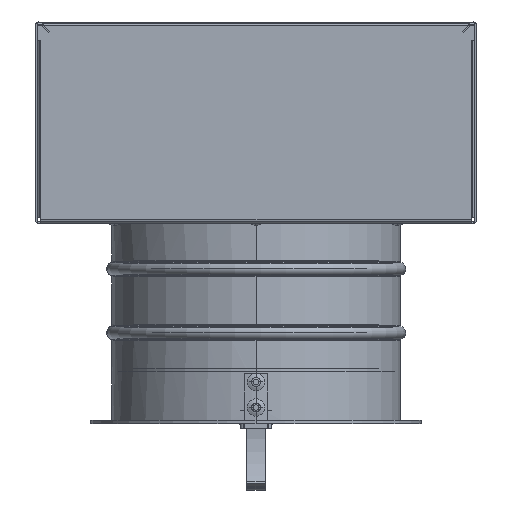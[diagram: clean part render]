
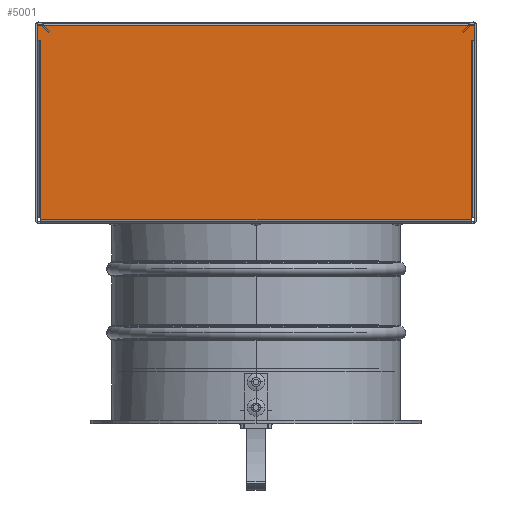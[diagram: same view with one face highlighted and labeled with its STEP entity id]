
A CAD part, left-side view. The second image highlights one B-rep face of the part: STEP entity #5001.
In plain terms, the highlighted planar face has unit normal (-1, 0, 0).
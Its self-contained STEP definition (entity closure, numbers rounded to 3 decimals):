
#1423=DIRECTION('',(0.,-1.,0.));
#1424=VECTOR('',#1423,236.08);
#1425=CARTESIAN_POINT('',(-150.545,-0.56,2.));
#1426=LINE('',#1425,#1424);
#1492=DIRECTION('',(0.,0.,1.));
#1493=VECTOR('',#1492,0.885);
#1494=CARTESIAN_POINT('',(-150.545,-0.56,2.));
#1495=LINE('',#1494,#1493);
#1496=DIRECTION('',(0.,0.,1.));
#1497=VECTOR('',#1496,97.721);
#1498=CARTESIAN_POINT('',(-150.545,-0.56,
2.885));
#1499=LINE('',#1498,#1497);
#1500=DIRECTION('',(0.,1.,0.));
#1501=VECTOR('',#1500,1.96);
#1502=CARTESIAN_POINT('',(-150.545,-0.56,
100.606));
#1503=LINE('',#1502,#1501);
#1504=DIRECTION('',(0.,0.,1.));
#1505=VECTOR('',#1504,7.883);
#1506=CARTESIAN_POINT('',(-150.545,1.4,100.606));
#1507=LINE('',#1506,#1505);
#1508=DIRECTION('',(0.,-1.,0.));
#1509=VECTOR('',#1508,240.);
#1510=CARTESIAN_POINT('',(-150.545,1.4,108.489));
#1511=LINE('',#1510,#1509);
#1512=DIRECTION('',(0.,0.,-1.));
#1513=VECTOR('',#1512,7.883);
#1514=CARTESIAN_POINT('',(-150.545,-238.6,108.489));
#1515=LINE('',#1514,#1513);
#1516=DIRECTION('',(0.,1.,0.));
#1517=VECTOR('',#1516,1.96);
#1518=CARTESIAN_POINT('',(-150.545,-238.6,100.606));
#1519=LINE('',#1518,#1517);
#1520=DIRECTION('',(0.,0.,1.));
#1521=VECTOR('',#1520,97.721);
#1522=CARTESIAN_POINT('',(-150.545,-236.64,2.885));
#1523=LINE('',#1522,#1521);
#1524=DIRECTION('',(0.,0.,-1.));
#1525=VECTOR('',#1524,0.885);
#1526=CARTESIAN_POINT('',(-150.545,-236.64,2.885));
#1527=LINE('',#1526,#1525);
#1547=CARTESIAN_POINT('',(-150.545,-0.56,
2.885));
#1895=CARTESIAN_POINT('',(-150.545,-236.64,2.885));
#2471=CARTESIAN_POINT('',(-150.545,-238.6,100.606));
#2473=VERTEX_POINT('',#2471);
#2475=CARTESIAN_POINT('',(-150.545,1.4,100.606));
#2477=VERTEX_POINT('',#2475);
#2692=CARTESIAN_POINT('',(-150.545,-236.64,100.606));
#2693=VERTEX_POINT('',#2692);
#2702=VERTEX_POINT('',#1895);
#2706=CARTESIAN_POINT('',(-150.545,-0.56,
100.606));
#2707=VERTEX_POINT('',#2706);
#2716=VERTEX_POINT('',#1547);
#2724=CARTESIAN_POINT('',(-150.545,-238.6,108.489));
#2725=VERTEX_POINT('',#2724);
#2728=CARTESIAN_POINT('',(-150.545,1.4,108.489));
#2729=VERTEX_POINT('',#2728);
#2752=CARTESIAN_POINT('',(-150.545,-236.64,2.));
#2753=VERTEX_POINT('',#2752);
#2756=CARTESIAN_POINT('',(-150.545,-0.56,2.));
#2757=VERTEX_POINT('',#2756);
#4977=CARTESIAN_POINT('',(-150.545,0.,-148.615));
#4978=DIRECTION('',(1.,0.,0.));
#4979=DIRECTION('',(0.,1.,0.));
#4980=AXIS2_PLACEMENT_3D('',#4977,#4978,#4979);
#4981=PLANE('',#4980);
#4982=ORIENTED_EDGE('',*,*,#4874,.F.);
#4983=ORIENTED_EDGE('',*,*,#4906,.T.);
#4985=ORIENTED_EDGE('',*,*,#4984,.T.);
#4987=ORIENTED_EDGE('',*,*,#4986,.T.);
#4989=ORIENTED_EDGE('',*,*,#4988,.T.);
#4991=ORIENTED_EDGE('',*,*,#4990,.T.);
#4993=ORIENTED_EDGE('',*,*,#4992,.T.);
#4995=ORIENTED_EDGE('',*,*,#4994,.T.);
#4997=ORIENTED_EDGE('',*,*,#4996,.F.);
#4998=ORIENTED_EDGE('',*,*,#4944,.T.);
#4999=EDGE_LOOP('',(#4982,#4983,#4985,#4987,#4989,#4991,#4993,#4995,#4997,
#4998));
#5000=FACE_OUTER_BOUND('',#4999,.F.);
#4874=EDGE_CURVE('',#2757,#2753,#1426,.T.);
#4906=EDGE_CURVE('',#2757,#2716,#1495,.T.);
#4944=EDGE_CURVE('',#2702,#2753,#1527,.T.);
#4984=EDGE_CURVE('',#2716,#2707,#1499,.T.);
#4986=EDGE_CURVE('',#2707,#2477,#1503,.T.);
#4988=EDGE_CURVE('',#2477,#2729,#1507,.T.);
#4990=EDGE_CURVE('',#2729,#2725,#1511,.T.);
#4992=EDGE_CURVE('',#2725,#2473,#1515,.T.);
#4994=EDGE_CURVE('',#2473,#2693,#1519,.T.);
#4996=EDGE_CURVE('',#2702,#2693,#1523,.T.);
#5001=ADVANCED_FACE('',(#5000),#4981,.F.);
